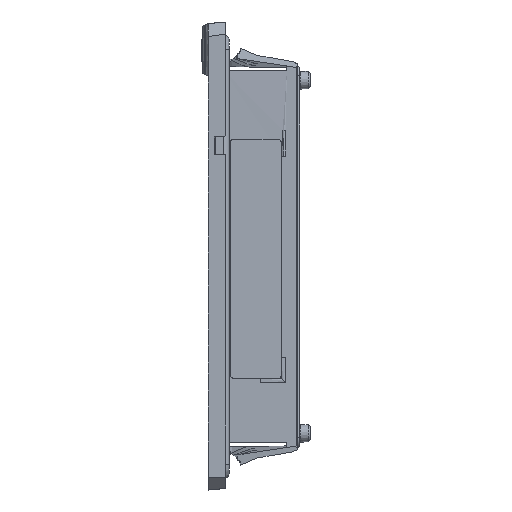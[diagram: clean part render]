
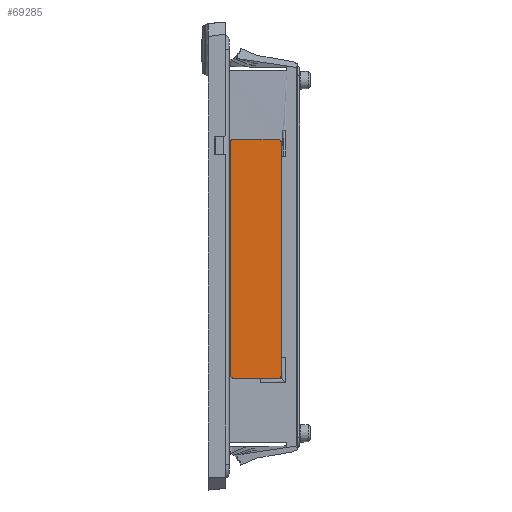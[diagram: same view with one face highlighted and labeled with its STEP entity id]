
A CAD part, left-side view. The second image highlights one B-rep face of the part: STEP entity #69285.
In plain terms, the highlighted planar face has unit normal (-1, 0, 0).
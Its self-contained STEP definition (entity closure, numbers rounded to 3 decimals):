
#5036 = CARTESIAN_POINT ( 'NONE',  ( -45.1, -4.5, -28.5 ) ) ;
#5037 = CARTESIAN_POINT ( 'NONE',  ( -45.1, -4.372, -28.5 ) ) ;
#5038 = CARTESIAN_POINT ( 'NONE',  ( -45.1, -4.25, -28.476 ) ) ;
#5040 = CARTESIAN_POINT ( 'NONE',  ( -45.1, -4.117, -28.424 ) ) ;
#5041 = CARTESIAN_POINT ( 'NONE',  ( -45.1, -4.1, -28.417 ) ) ;
#5042 = CARTESIAN_POINT ( 'NONE',  ( -45.1, -4.069, -28.402 ) ) ;
#5043 = CARTESIAN_POINT ( 'NONE',  ( -45.1, -4.023, -28.38 ) ) ;
#5044 = CARTESIAN_POINT ( 'NONE',  ( -45.1, -3.92, -28.32 ) ) ;
#5045 = CARTESIAN_POINT ( 'NONE',  ( -45.1, -3.842, -28.256 ) ) ;
#5046 = CARTESIAN_POINT ( 'NONE',  ( -45.1, -3.696, -28.11 ) ) ;
#5047 = CARTESIAN_POINT ( 'NONE',  ( -45.1, -3.621, -27.996 ) ) ;
#5048 = CARTESIAN_POINT ( 'NONE',  ( -45.1, -3.564, -27.852 ) ) ;
#5049 = CARTESIAN_POINT ( 'NONE',  ( -45.1, -3.559, -27.839 ) ) ;
#5050 = CARTESIAN_POINT ( 'NONE',  ( -45.1, -3.549, -27.809 ) ) ;
#5051 = CARTESIAN_POINT ( 'NONE',  ( -45.1, -3.534, -27.764 ) ) ;
#5052 = CARTESIAN_POINT ( 'NONE',  ( -45.1, -3.509, -27.657 ) ) ;
#5053 = CARTESIAN_POINT ( 'NONE',  ( -45.1, -3.5, -27.564 ) ) ;
#5054 = CARTESIAN_POINT ( 'NONE',  ( -45.1, -3.5, -27.5 ) ) ;
#5056 = DIRECTION ( 'NONE',  ( 0., 0., -1. ) ) ;
#5057 = VECTOR ( 'NONE', #5056, 1000. ) ;
#5058 = LINE ( 'NONE', #5144, #5057 ) ;
#5142 = B_SPLINE_CURVE_WITH_KNOTS ( 'NONE', 3,
 ( #5054, #5053, #5052, #5051, #5050, #5049, #5048, #5047, #5046, #5045, #5044, #5043, #5042, #5041, #5040, #5038, #5037, #5036 ),
 .UNSPECIFIED., .F., .F.,
 ( 4, 1, 1, 2, 2, 2, 1, 1, 2, 2, 4 ),
 ( 0., 0.125, 0.187, 0.219, 0.25, 0.5, 0.625, 0.687, 0.719, 0.75, 1. ),
 .UNSPECIFIED. ) ;
#5144 = CARTESIAN_POINT ( 'NONE',  ( -45.1, -3.5, -27.5 ) ) ;
#5194 = CARTESIAN_POINT ( 'NONE',  ( -45.1, -15.5, -27.5 ) ) ;
#6478 = DIRECTION ( 'NONE',  ( 0., 0., 1. ) ) ;
#6479 = DIRECTION ( 'NONE',  ( -1., 0., 0. ) ) ;
#6486 = PLANE ( 'NONE',  #6555 ) ;
#6504 = CARTESIAN_POINT ( 'NONE',  ( -45.1, -3.5, 26.5 ) ) ;
#6505 = CARTESIAN_POINT ( 'NONE',  ( -45.1, -3.5, 26.628 ) ) ;
#6506 = CARTESIAN_POINT ( 'NONE',  ( -45.1, -3.524, 26.75 ) ) ;
#6507 = CARTESIAN_POINT ( 'NONE',  ( -45.1, -3.576, 26.883 ) ) ;
#6508 = CARTESIAN_POINT ( 'NONE',  ( -45.1, -3.583, 26.9 ) ) ;
#6509 = CARTESIAN_POINT ( 'NONE',  ( -45.1, -3.598, 26.931 ) ) ;
#6510 = CARTESIAN_POINT ( 'NONE',  ( -45.1, -3.62, 26.977 ) ) ;
#6511 = CARTESIAN_POINT ( 'NONE',  ( -45.1, -3.68, 27.08 ) ) ;
#6553 = CARTESIAN_POINT ( 'NONE',  ( -45.1, -4.5, -27.5 ) ) ;
#6554 = FACE_OUTER_BOUND ( 'NONE', #65889, .T. ) ;
#6555 = AXIS2_PLACEMENT_3D ( 'NONE', #6553, #6479, #6478 ) ;
#6590 = CARTESIAN_POINT ( 'NONE',  ( -45.1, -4.5, 27.5 ) ) ;
#6620 = B_SPLINE_CURVE_WITH_KNOTS ( 'NONE', 3,
 ( #6649, #6648, #6647, #6646, #6645, #6644, #6643, #6642, #6641, #6640, #6511, #6510, #6509, #6508, #6507, #6506, #6505, #6504 ),
 .UNSPECIFIED., .F., .F.,
 ( 4, 1, 1, 2, 2, 2, 1, 1, 2, 2, 4 ),
 ( 0., 0.125, 0.187, 0.219, 0.25, 0.5, 0.625, 0.688, 0.719, 0.75, 1. ),
 .UNSPECIFIED. ) ;
#6640 = CARTESIAN_POINT ( 'NONE',  ( -45.1, -3.744, 27.158 ) ) ;
#6641 = CARTESIAN_POINT ( 'NONE',  ( -45.1, -3.89, 27.304 ) ) ;
#6642 = CARTESIAN_POINT ( 'NONE',  ( -45.1, -4.004, 27.379 ) ) ;
#6643 = CARTESIAN_POINT ( 'NONE',  ( -45.1, -4.148, 27.436 ) ) ;
#6644 = CARTESIAN_POINT ( 'NONE',  ( -45.1, -4.161, 27.441 ) ) ;
#6645 = CARTESIAN_POINT ( 'NONE',  ( -45.1, -4.191, 27.451 ) ) ;
#6646 = CARTESIAN_POINT ( 'NONE',  ( -45.1, -4.236, 27.466 ) ) ;
#6647 = CARTESIAN_POINT ( 'NONE',  ( -45.1, -4.343, 27.491 ) ) ;
#6648 = CARTESIAN_POINT ( 'NONE',  ( -45.1, -4.436, 27.5 ) ) ;
#6649 = CARTESIAN_POINT ( 'NONE',  ( -45.1, -4.5, 27.5 ) ) ;
#6693 = CIRCLE ( 'NONE', #6804, 1. ) ;
#6696 = CARTESIAN_POINT ( 'NONE',  ( -45.1, -3.5, -27.5 ) ) ;
#6703 = CIRCLE ( 'NONE', #6764, 1. ) ;
#6731 = DIRECTION ( 'NONE',  ( 0., 0., -1. ) ) ;
#6732 = DIRECTION ( 'NONE',  ( -1., 0., 0. ) ) ;
#6746 = DIRECTION ( 'NONE',  ( 0., 0., -1. ) ) ;
#6747 = DIRECTION ( 'NONE',  ( -1., 0., 0. ) ) ;
#6764 = AXIS2_PLACEMENT_3D ( 'NONE', #6854, #6732, #6731 ) ;
#6765 = CARTESIAN_POINT ( 'NONE',  ( -45.1, -4.5, 27.5 ) ) ;
#6766 = LINE ( 'NONE', #6765, #6862 ) ;
#6786 = CARTESIAN_POINT ( 'NONE',  ( -45.1, -4.5, -28.5 ) ) ;
#6797 = CARTESIAN_POINT ( 'NONE',  ( -45.1, -14.5, -28.5 ) ) ;
#6804 = AXIS2_PLACEMENT_3D ( 'NONE', #6852, #6747, #6746 ) ;
#6827 = DIRECTION ( 'NONE',  ( 0., -1., 0. ) ) ;
#6840 = VECTOR ( 'NONE', #6827, 1000. ) ;
#6841 = CARTESIAN_POINT ( 'NONE',  ( -45.1, -4.5, -28.5 ) ) ;
#6842 = LINE ( 'NONE', #6841, #6840 ) ;
#6848 = CARTESIAN_POINT ( 'NONE',  ( -45.1, -15.5, -27.5 ) ) ;
#6849 = LINE ( 'NONE', #6848, #6856 ) ;
#6852 = CARTESIAN_POINT ( 'NONE',  ( -45.1, -14.5, -27.5 ) ) ;
#6854 = CARTESIAN_POINT ( 'NONE',  ( -45.1, -14.5, 26.5 ) ) ;
#6855 = DIRECTION ( 'NONE',  ( 0., 0., 1. ) ) ;
#6856 = VECTOR ( 'NONE', #6855, 1000. ) ;
#6861 = DIRECTION ( 'NONE',  ( 0., 1., 0. ) ) ;
#6862 = VECTOR ( 'NONE', #6861, 1000. ) ;
#6867 = CARTESIAN_POINT ( 'NONE',  ( -45.1, -14.5, 27.5 ) ) ;
#6868 = CARTESIAN_POINT ( 'NONE',  ( -45.1, -15.5, 26.5 ) ) ;
#17167 = VERTEX_POINT ( 'NONE', #22640 ) ;
#22640 = CARTESIAN_POINT ( 'NONE',  ( -45.1, -3.5, 26.5 ) ) ;
#65889 = EDGE_LOOP ( 'NONE', ( #69287, #66332, #66020, #66198, #66252, #66265, #66200, #66245 ) ) ;
#66016 = EDGE_CURVE ( 'NONE', #66083, #66120, #5142, .T. ) ;
#66018 = EDGE_CURVE ( 'NONE', #17167, #66083, #5058, .T. ) ;
#66020 = ORIENTED_EDGE ( 'NONE', *, *, #66016, .T. ) ;
#66083 = VERTEX_POINT ( 'NONE', #6696 ) ;
#66086 = EDGE_CURVE ( 'NONE', #66119, #66261, #6693, .T. ) ;
#66100 = EDGE_CURVE ( 'NONE', #66203, #69354, #6766, .T. ) ;
#66119 = VERTEX_POINT ( 'NONE', #6797 ) ;
#66120 = VERTEX_POINT ( 'NONE', #6786 ) ;
#66148 = EDGE_CURVE ( 'NONE', #66261, #66196, #6849, .T. ) ;
#66169 = EDGE_CURVE ( 'NONE', #66196, #66203, #6703, .T. ) ;
#66175 = EDGE_CURVE ( 'NONE', #66120, #66119, #6842, .T. ) ;
#66196 = VERTEX_POINT ( 'NONE', #6868 ) ;
#66198 = ORIENTED_EDGE ( 'NONE', *, *, #66175, .T. ) ;
#66200 = ORIENTED_EDGE ( 'NONE', *, *, #66169, .T. ) ;
#66203 = VERTEX_POINT ( 'NONE', #6867 ) ;
#66245 = ORIENTED_EDGE ( 'NONE', *, *, #66100, .T. ) ;
#66252 = ORIENTED_EDGE ( 'NONE', *, *, #66086, .T. ) ;
#66261 = VERTEX_POINT ( 'NONE', #5194 ) ;
#66265 = ORIENTED_EDGE ( 'NONE', *, *, #66148, .T. ) ;
#66332 = ORIENTED_EDGE ( 'NONE', *, *, #66018, .T. ) ;
#69285 = ADVANCED_FACE ( 'NONE', ( #6554 ), #6486, .T. ) ;
#69287 = ORIENTED_EDGE ( 'NONE', *, *, #69357, .T. ) ;
#69354 = VERTEX_POINT ( 'NONE', #6590 ) ;
#69357 = EDGE_CURVE ( 'NONE', #69354, #17167, #6620, .T. ) ;
